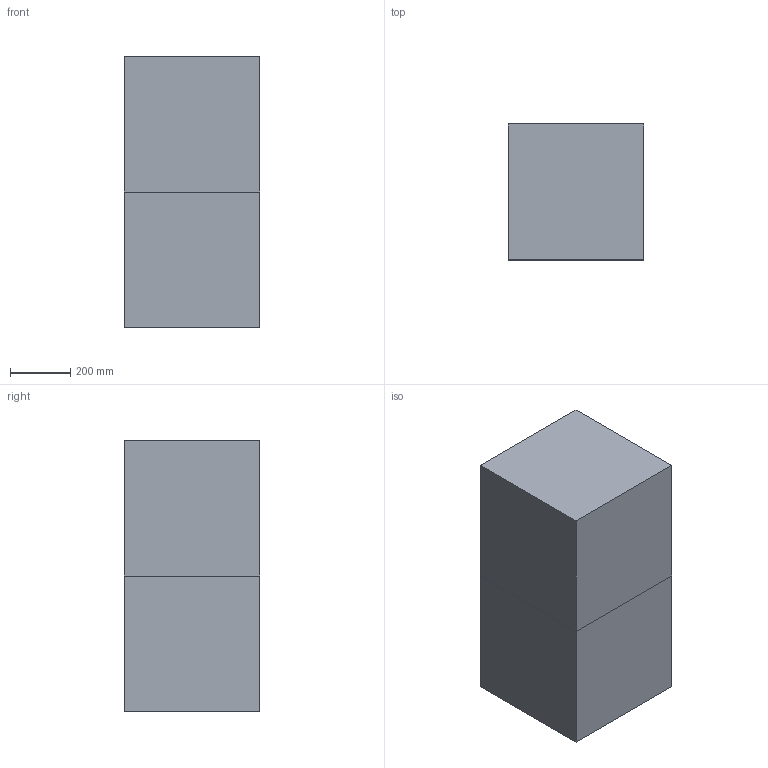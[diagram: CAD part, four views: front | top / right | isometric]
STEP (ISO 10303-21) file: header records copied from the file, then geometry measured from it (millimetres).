
FILE_DESCRIPTION (( 'STEP AP203' ), '1' );
FILE_NAME ('Extrabox Planter Type B.STEP', '2019-01-15T13:45:20', ( '' ), ( '' ), 'SwSTEP 2.0', 'SolidWorks 2019', '' );
FILE_SCHEMA (( 'CONFIG_CONTROL_DESIGN' ));
Length unit declared in the file: millimetre
Products named in the file (3): Extrabox Cubby Type B_Domy˜lna; Extrabox Planter Type B; Extrabox Type A_Domy˜lna
Assembly tree (2 placements, depth 2):
  Extrabox Planter Type B
    Extrabox Cubby Type B_Domy˜lna
    Extrabox Type A_Domy˜lna
Bounding box: 450 x 450 x 900 mm (x, y, z)
Volume: 109274136 mm3; surface area: 3207376 mm2
Topology: 2 solids, 2 shells, 22 faces, 48 edges, 32 vertices
Faces by surface type: plane 22
Entity records: 897 total; most frequent: CARTESIAN_POINT 107, DIRECTION 102, ORIENTED_EDGE 96, LINE 48, EDGE_CURVE 48, VECTOR 48, VERTEX_POINT 32, AXIS2_PLACEMENT_3D 27
